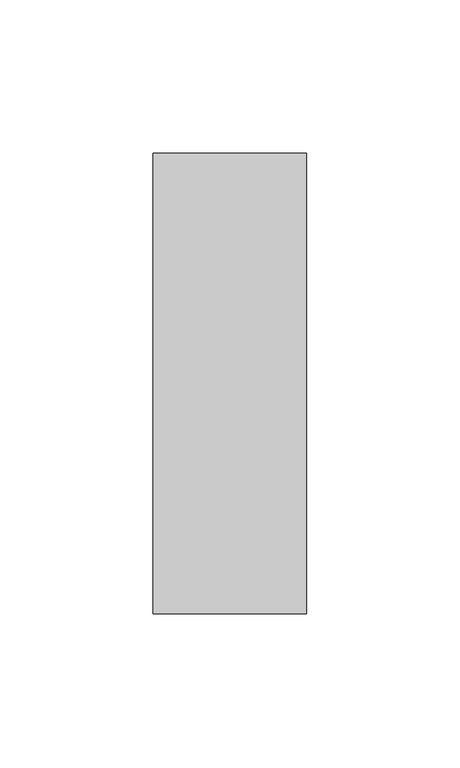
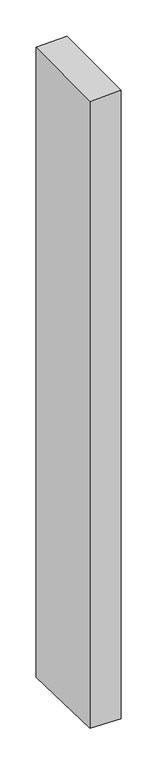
"""IFC4 building model written with IfcOpenShell, lengths in millimetres: member geometry, Прямоугольный импост : 50 x 150 мм."""

from ifc_helpers import new_model, si_unit, origin, place, context, project, spatial, faceted_brep, source, transform, mapped, element, save


def member_26cd77a4(model_context):
    return source(origin(), model_context, "Body", "Brep", [
        faceted_brep([(-25.0, 75.0, -0.1516288), (25.0, 75.0, 1.4244597), (25.0, 75.0, -1070.1702127), (-25.0, 75.0, -1068.439079), (-25.0, -75.0, -1.4244597), (-25.0, -75.0, -1063.4800671), (25.0, -75.0, 0.1516288), (25.0, -75.0, -1065.2112008)], [[[0, 1, 2, 3]], [[4, 0, 3, 5]], [[6, 4, 5, 7]], [[1, 6, 7, 2]], [[1, 0, 4, 6]], [[2, 7, 5, 3]]]),
    ])


if __name__ == "__main__":
    model = new_model("IFC4")
    model_context = context("Model", 3, world=origin())
    ifc_project = project(units=[si_unit("LENGTHUNIT", "METRE", prefix="MILLI")], contexts=[model_context])
    site = spatial("IfcSite", under=ifc_project)
    building = spatial("IfcBuilding", under=site)
    placement = place(None, origin())
    member_shape = member_26cd77a4(model_context)
    element("IfcMember", 1, ObjectType="Прямоугольный импост : 50 x 150 мм", at=placement, inside=building, context=model_context, shape_type="MappedRepresentation", body=[
        mapped(member_shape, transform((0.0, 0.0, 0.0), x_axis=(1.0, 0.0, 0.0), y_axis=(0.0, 1.0, 0.0), z_axis=(0.0, 0.0, 1.0))),
    ])
    save(model, "model.ifc")
